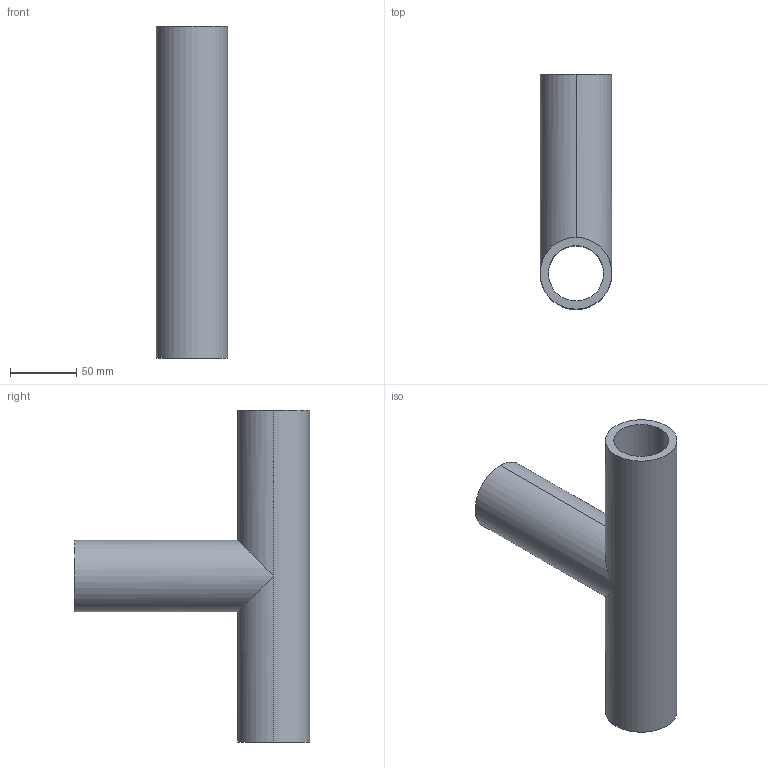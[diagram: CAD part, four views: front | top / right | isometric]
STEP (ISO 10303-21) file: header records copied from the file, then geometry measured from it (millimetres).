
FILE_DESCRIPTION (( 'STEP AP203' ), '1' );
FILE_NAME ('KP_8-54F.step', '2011-08-08T11:40:46', ( '' ), ( '' ), 'SwSTEP 2.0', 'SolidWorks 2011', '' );
FILE_SCHEMA (( 'CONFIG_CONTROL_DESIGN' ));
Length unit declared in the file: millimetre
Products named in the file (1): KP_8-54F
Bounding box: 54 x 177 x 250 mm (x, y, z)
Volume: 343926.1 mm3; surface area: 113634.5 mm2
Topology: 1 solids, 1 shells, 13 faces, 32 edges, 20 vertices
Faces by surface type: cylinder 10, plane 3
Entity records: 471 total; most frequent: CARTESIAN_POINT 90, DIRECTION 64, ORIENTED_EDGE 64, EDGE_CURVE 32, AXIS2_PLACEMENT_3D 26, VERTEX_POINT 20, EDGE_LOOP 16, ADVANCED_FACE 13
